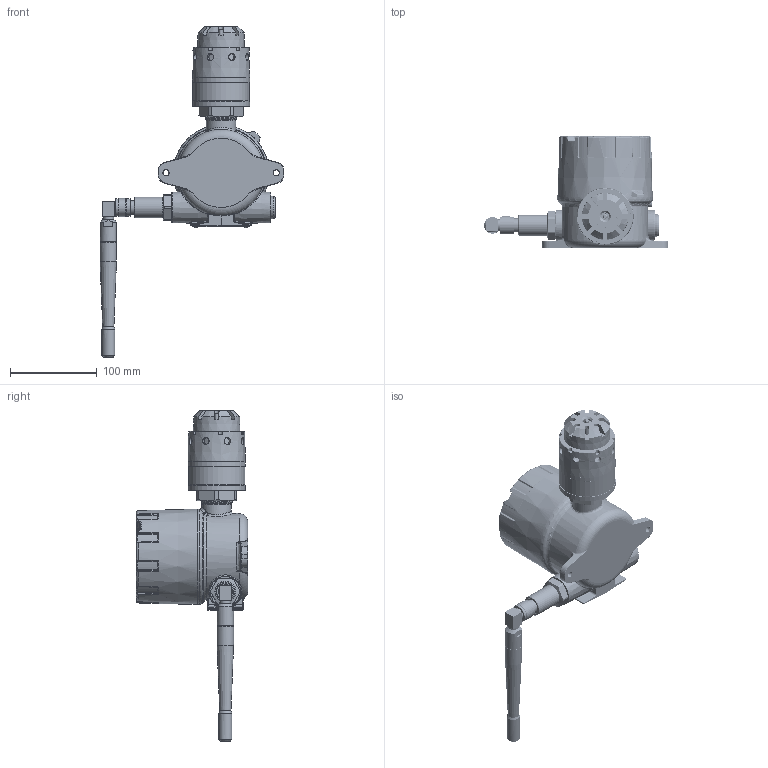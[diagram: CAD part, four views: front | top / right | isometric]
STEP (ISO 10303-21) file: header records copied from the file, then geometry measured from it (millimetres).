
FILE_DESCRIPTION(('STEP AP214'), '1');
FILE_NAME('ÄÃÑ ÝÐÈÑ-210_RF_ñ ÁÈÇ àíòåííû_äëÿ ïðîåêòèðîâùèêîâ', '', ('UNSPECIFIED'), ('UNSPECIFIED'), 'ASCON STEP Converter 1.6', 'ASCON Math Kernel', '');
FILE_SCHEMA(('AUTOMOTIVE_DESIGN { 1 0 10303 214 3 1 1}'));
Length unit declared in the file: millimetre
Products named in the file (1): 橾迕.413216.213
Bounding box: 212.1 x 128.8 x 381.2 mm (x, y, z)
Volume: 766452.5 mm3; surface area: 242213.7 mm2
Topology: 11 solids, 11 shells, 7217 faces, 18938 edges, 12026 vertices
Faces by surface type: plane 3323, extrusion 1424, cylinder 978, bspline 974, cone 253, torus 179, sphere 86
Full cylindrical faces by diameter (mm): 0.75 x12, 1.2 x5, 1.8 x1, 2 x3, 2.459 x8, 2.5 x2, 2.6 x6, 2.8 x5, 3 x4, 3.2 x3, 3.242 x1, 3.5 x2, 3.6 x2, 3.9 x1, 4.1 x1, 4.5 x1, 5 x1, 5.064 x1, 5.5 x3, 7 x1, 7.28 x1, 7.5 x1, 7.95 x8, 8.28 x1, 8.4 x1, 10 x1, 10.106 x1, 10.15 x1, 11.2 x1, 12.6 x1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
Entity records: 421171 total; most frequent: CARTESIAN_POINT 202200, ORIENTED_EDGE 36996, DIRECTION 25248, EDGE_CURVE 18498, VERTEX_POINT 11995, VECTOR 11772, LINE 10348, EDGE_LOOP 8100
